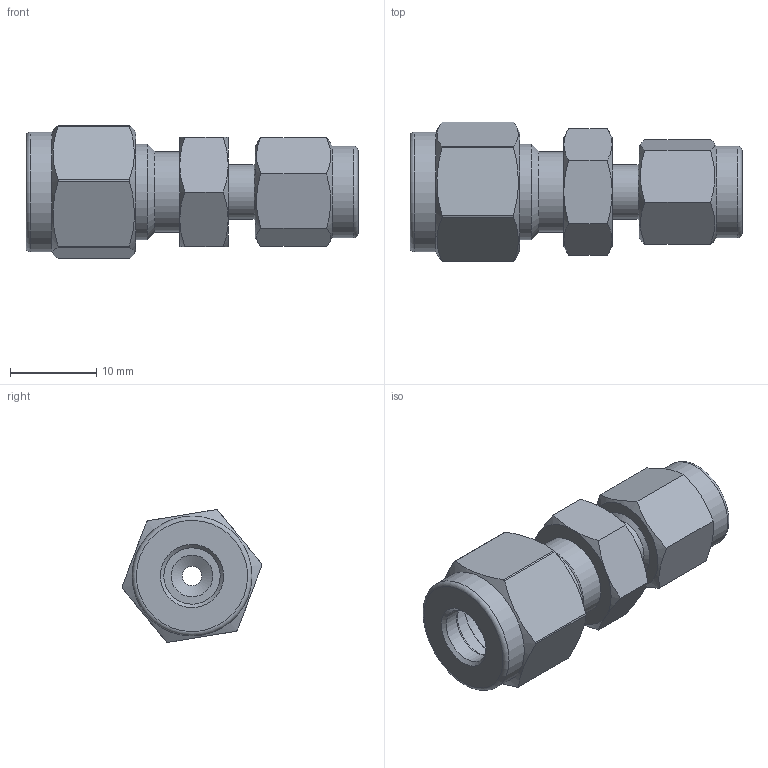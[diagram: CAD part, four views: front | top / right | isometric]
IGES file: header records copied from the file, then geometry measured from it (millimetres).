
Global section: file name: No Iges File Name specified; native system: Autodesk Inventor 2012; preprocessor: AutoDesk Inventor Iges Exporter R2012; author: 硅己绕,,1; organization: 1; date: 20150420.101249; units: millimetre
Bounding box: 38.51 x 16.21 x 15.42 mm (x, y, z)
Volume: 3503.8 mm3; surface area: 3423.3 mm2
Topology: 3 solids, 3 shells, 89 faces, 188 edges, 112 vertices
Faces by surface type: plane 31, cone 20, revolution 20, cylinder 14, torus 4
Full cylindrical faces by diameter (mm): 6.28 x2, 7.94 x1, 9.3 x1, 9.4 x1, 10.6 x1, 11.112 x1, 13.9 x1
